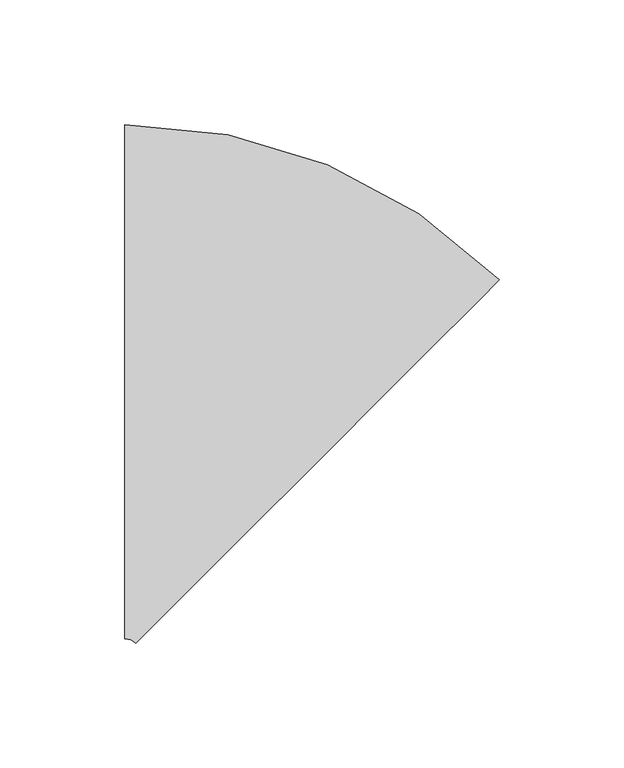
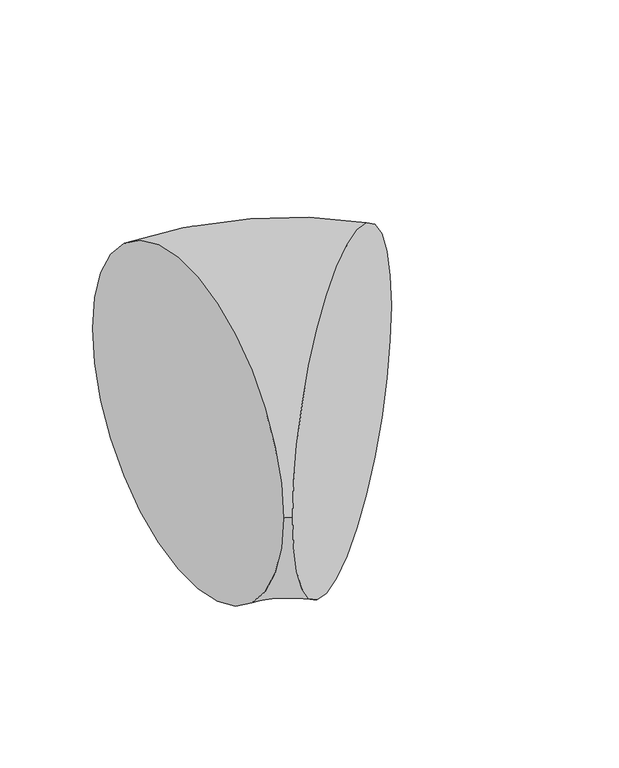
"""IFC4 building model written with IfcOpenShell, lengths in millimetres: pipe fitting geometry, M_Codo - Genérico : Estándar."""

from ifc_helpers import new_model, si_unit, point, frame, origin, place, context, project, spatial, circle_curve, ellipse_curve, trimmed, source, transform, mapped, element, save
from ifc_brep_helpers import plane_surface, revolved_surface, advanced_brep


def pipe_fitting_ff364d05(model_context):
    return source(origin(), model_context, "Body", "AdvancedBrep", [
        advanced_brep(
        [(-45.3691073, 103.1875, 0.0), (-45.3691073, -103.1875, 0.0), (105.0435934, 40.8883791, 0.0), (-40.8791759, -105.0471753, 0.0)],
        [
            (0, 1, circle_curve(frame((-45.3691073, 0.0, 0.0), z_axis=(-1.0, 0.0, 0.0), x_axis=(0.0, -1.0, 0.0)), 103.1875)),
            (1, 0, circle_curve(frame((-45.3691073, 0.0, 0.0), z_axis=(-1.0, 0.0, 0.0), x_axis=(0.0, -1.0, 0.0)), 103.1875)),
            (2, 3, circle_curve(frame((32.0822087, -32.0793981, 0.0), z_axis=(0.7071377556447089, -0.707075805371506, 0.0), x_axis=(-0.707075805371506, -0.7071377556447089, 0.0)), 103.1875)),
            (3, 2, circle_curve(frame((32.0822087, -32.0793981, 0.0), z_axis=(0.7071377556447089, -0.707075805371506, 0.0), x_axis=(-0.707075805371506, -0.7071377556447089, 0.0)), 103.1875)),
            (2, 0, circle_curve(frame((-45.3691073, -109.5375, 0.0), z_axis=(0.0, 0.0, 1.0), x_axis=(0.0, 1.0, 0.0)), 212.725)),
            (1, 3, circle_curve(frame((-45.3691073, -109.5375, 0.0), z_axis=(0.0, 0.0, -1.0), x_axis=(0.0, 1.0, 0.0)), 6.35)),
        ],
        [
            plane_surface(frame((-45.3691073, 0.0, 0.0), z_axis=(-1.0, 0.0, 0.0), x_axis=(0.0, 0.0, 1.0))),
            plane_surface(frame((32.0822087, -32.0793981, 0.0), z_axis=(0.7071377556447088, -0.7070758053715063, 0.0), x_axis=(0.0, 0.0, 1.0))),
            revolved_surface(trimmed(ellipse_curve(frame((-45.3691073, 0.0, 0.0), z_axis=(1.0, 0.0, 0.0), x_axis=(0.0, -1.0, 0.0)), 103.1875, 103.1875), [point((-45.3691073, 103.1875, 0.0))], [point((-45.3691073, -103.1875, 0.0))], True, "CARTESIAN"), (-45.3691073, -109.5375, 0.0), (0.0, 0.0, 1.0)),
            revolved_surface(trimmed(ellipse_curve(frame((-45.3691073, 0.0, 0.0), z_axis=(1.0, 0.0, 0.0), x_axis=(0.0, -1.0, 0.0)), 103.1875, 103.1875), [point((-45.3691073, -103.1875, 0.0))], [point((-45.3691073, 103.1875, 0.0))], True, "CARTESIAN"), (-45.3691073, -109.5375, 0.0), (0.0, 0.0, 1.0)),
        ],
        [
            (0, [[1, 2]]),
            (1, [[3, 4]]),
            (2, [[-3, 5, -2, 6]]),
            (3, [[-4, -6, -1, -5]]),
        ],
    ),
    ])


if __name__ == "__main__":
    model = new_model("IFC4")
    model_context = context("Model", 3, world=origin())
    ifc_project = project(units=[si_unit("LENGTHUNIT", "METRE", prefix="MILLI")], contexts=[model_context])
    site = spatial("IfcSite", under=ifc_project)
    building = spatial("IfcBuilding", under=site)
    placement = place(None, origin())
    pipe_fitting_shape = pipe_fitting_ff364d05(model_context)
    element("IfcPipeFitting", 1, ObjectType="M_Codo - Genérico : Estándar", at=placement, inside=building, context=model_context, shape_type="MappedRepresentation", body=[
        mapped(pipe_fitting_shape, transform((0.0, 0.0, 0.0), x_axis=(1.0, 0.0, 0.0), y_axis=(0.0, 1.0, 0.0), z_axis=(0.0, 0.0, 1.0))),
    ])
    save(model, "model.ifc")
